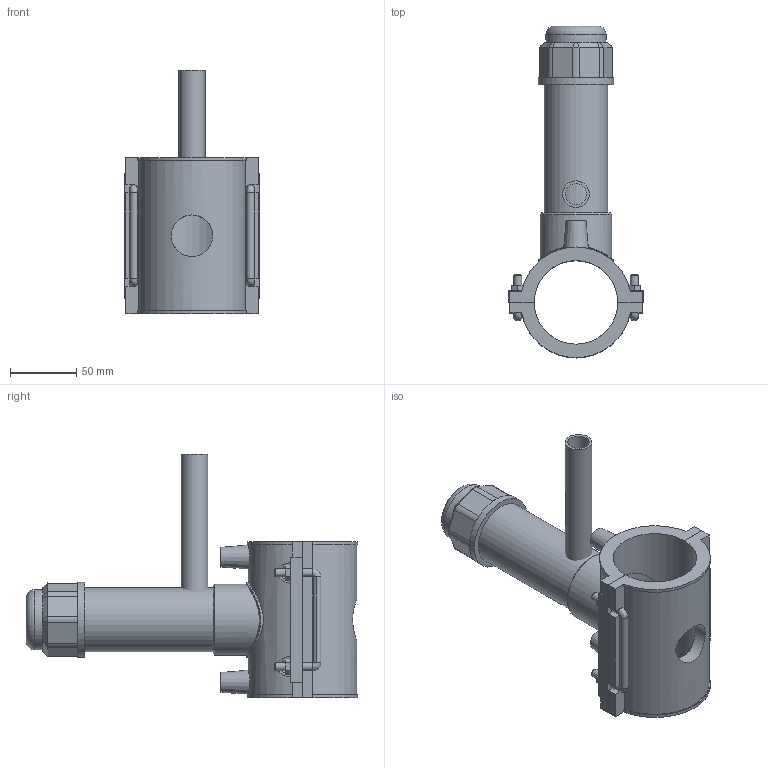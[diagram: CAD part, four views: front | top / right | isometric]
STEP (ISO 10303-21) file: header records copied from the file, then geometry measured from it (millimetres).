
FILE_DESCRIPTION(/* description */ (''),/* implementation_level */ '2;1');
FILE_NAME(/* name */ 'C:\Dropbox\KIMPROJECTS-Inventor 2019\99-16-3568-Processing\ElectroFusion Fittings\4963P4\stp\4963P4063020.stp',/* time_stamp */ '2022-03-17T11:25:23+02:00',/* author */ ('KIM'),/* organization */ (''),/* preprocessor_version */ 'ST-DEVELOPER v17.2',/* originating_system */ 'Autodesk Inventor 2019',/* authorisation */ '');
FILE_SCHEMA (('AUTOMOTIVE_DESIGN { 1 0 10303 214 3 1 1 }'));
Length unit declared in the file: millimetre
Products named in the file (1): 4963P4063020
Bounding box: 102 x 250.27 x 184 mm (x, y, z)
Volume: 506940.2 mm3; surface area: 145853 mm2
Topology: 3 solids, 3 shells, 188 faces, 493 edges, 316 vertices
Faces by surface type: plane 115, cylinder 48, cone 15, bspline 9, torus 1
Full cylindrical faces by diameter (mm): 4 x2, 6 x8, 10 x2, 16 x1, 20 x1, 31.36 x1, 39.69 x1, 45.36 x1, 48.195 x1, 53.865 x1, 56.7 x2
Entity records: 6785 total; most frequent: CARTESIAN_POINT 2083, ORIENTED_EDGE 970, DIRECTION 961, EDGE_CURVE 485, AXIS2_PLACEMENT_3D 329, VERTEX_POINT 316, LINE 303, VECTOR 303
